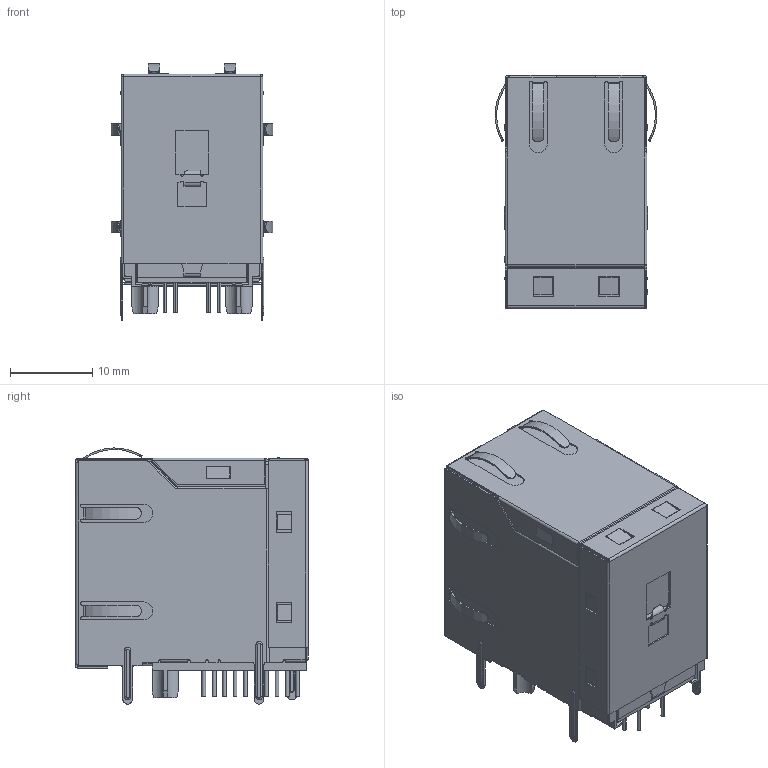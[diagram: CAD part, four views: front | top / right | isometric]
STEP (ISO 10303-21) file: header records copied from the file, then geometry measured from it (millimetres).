
FILE_DESCRIPTION((''),'2;1');
FILE_NAME('DGKYD21B083DC2A2D057','2020-11-12T10:04:02',('Administrator'),(''),'CREO PARAMETRIC BY PTC INC, 2018400','CREO PARAMETRIC BY PTC INC, 2018400','');
FILE_SCHEMA(('CONFIG_CONTROL_DESIGN'));
Products named in the file (1): DGKYD21B083DC2A2D057
Bounding box: 19.68 x 28.35 x 31.19 mm (x, y, z)
Volume: 7374.3 mm3; surface area: 14140.5 mm2
Topology: 1 solids, 7 shells, 2928 faces, 8546 edges, 5592 vertices
Faces by surface type: plane 2025, cylinder 810, bspline 39, torus 30, sphere 20, extrusion 4
Entity records: 98771 total; most frequent: CARTESIAN_POINT 19700, ORIENTED_EDGE 17052, DIRECTION 16033, EDGE_CURVE 8526, VECTOR 6423, LINE 6419, VERTEX_POINT 5592, AXIS2_PLACEMENT_3D 4805
